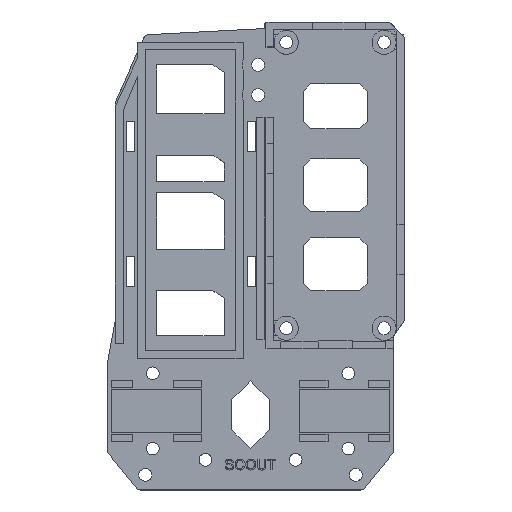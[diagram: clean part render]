
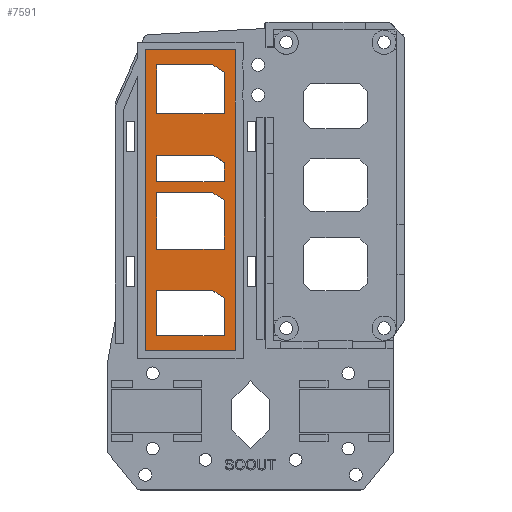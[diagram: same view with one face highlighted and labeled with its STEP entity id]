
A CAD part, top view. The second image highlights one B-rep face of the part: STEP entity #7591.
In plain terms, the highlighted planar face has unit normal (0, 0, 1).
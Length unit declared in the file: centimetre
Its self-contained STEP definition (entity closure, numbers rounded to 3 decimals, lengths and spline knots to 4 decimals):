
#372=FACE_BOUND('',#869,.T.);
#373=FACE_BOUND('',#870,.T.);
#374=FACE_BOUND('',#871,.T.);
#375=FACE_BOUND('',#872,.T.);
#459=FACE_OUTER_BOUND('',#868,.T.);
#868=EDGE_LOOP('',(#5071,#5072,#5073,#5074));
#869=EDGE_LOOP('',(#5075,#5076,#5077,#5078,#5079));
#870=EDGE_LOOP('',(#5080,#5081,#5082,#5083,#5084));
#871=EDGE_LOOP('',(#5085,#5086,#5087,#5088,#5089));
#872=EDGE_LOOP('',(#5090,#5091,#5092,#5093,#5094));
#1379=LINE('',#10163,#2272);
#1383=LINE('',#10171,#2276);
#1386=LINE('',#10177,#2279);
#1389=LINE('',#10182,#2282);
#1391=LINE('',#10187,#2284);
#1392=LINE('',#10189,#2285);
#1393=LINE('',#10191,#2286);
#1394=LINE('',#10193,#2287);
#1395=LINE('',#10194,#2288);
#1396=LINE('',#10197,#2289);
#1397=LINE('',#10199,#2290);
#1398=LINE('',#10201,#2291);
#1399=LINE('',#10203,#2292);
#1400=LINE('',#10204,#2293);
#1401=LINE('',#10207,#2294);
#1402=LINE('',#10209,#2295);
#1403=LINE('',#10211,#2296);
#1404=LINE('',#10213,#2297);
#1405=LINE('',#10214,#2298);
#1406=LINE('',#10217,#2299);
#1407=LINE('',#10219,#2300);
#1408=LINE('',#10221,#2301);
#1409=LINE('',#10223,#2302);
#1410=LINE('',#10224,#2303);
#2272=VECTOR('',#8447,1.);
#2276=VECTOR('',#8453,1.);
#2279=VECTOR('',#8458,1.);
#2282=VECTOR('',#8463,1.);
#2284=VECTOR('',#8467,1.);
#2285=VECTOR('',#8468,1.);
#2286=VECTOR('',#8469,1.);
#2287=VECTOR('',#8470,1.);
#2288=VECTOR('',#8471,1.);
#2289=VECTOR('',#8472,1.);
#2290=VECTOR('',#8473,1.);
#2291=VECTOR('',#8474,1.);
#2292=VECTOR('',#8475,1.);
#2293=VECTOR('',#8476,1.);
#2294=VECTOR('',#8477,1.);
#2295=VECTOR('',#8478,1.);
#2296=VECTOR('',#8479,1.);
#2297=VECTOR('',#8480,1.);
#2298=VECTOR('',#8481,1.);
#2299=VECTOR('',#8482,1.);
#2300=VECTOR('',#8483,1.);
#2301=VECTOR('',#8484,1.);
#2302=VECTOR('',#8485,1.);
#2303=VECTOR('',#8486,1.);
#3163=VERTEX_POINT('',#10161);
#3164=VERTEX_POINT('',#10162);
#3167=VERTEX_POINT('',#10170);
#3169=VERTEX_POINT('',#10176);
#3171=VERTEX_POINT('',#10185);
#3172=VERTEX_POINT('',#10186);
#3173=VERTEX_POINT('',#10188);
#3174=VERTEX_POINT('',#10190);
#3175=VERTEX_POINT('',#10192);
#3176=VERTEX_POINT('',#10195);
#3177=VERTEX_POINT('',#10196);
#3178=VERTEX_POINT('',#10198);
#3179=VERTEX_POINT('',#10200);
#3180=VERTEX_POINT('',#10202);
#3181=VERTEX_POINT('',#10205);
#3182=VERTEX_POINT('',#10206);
#3183=VERTEX_POINT('',#10208);
#3184=VERTEX_POINT('',#10210);
#3185=VERTEX_POINT('',#10212);
#3186=VERTEX_POINT('',#10215);
#3187=VERTEX_POINT('',#10216);
#3188=VERTEX_POINT('',#10218);
#3189=VERTEX_POINT('',#10220);
#3190=VERTEX_POINT('',#10222);
#3919=EDGE_CURVE('',#3163,#3164,#1379,.T.);
#3923=EDGE_CURVE('',#3167,#3163,#1383,.T.);
#3926=EDGE_CURVE('',#3169,#3167,#1386,.T.);
#3929=EDGE_CURVE('',#3164,#3169,#1389,.T.);
#3931=EDGE_CURVE('',#3171,#3172,#1391,.T.);
#3932=EDGE_CURVE('',#3172,#3173,#1392,.T.);
#3933=EDGE_CURVE('',#3173,#3174,#1393,.T.);
#3934=EDGE_CURVE('',#3174,#3175,#1394,.T.);
#3935=EDGE_CURVE('',#3175,#3171,#1395,.T.);
#3936=EDGE_CURVE('',#3176,#3177,#1396,.T.);
#3937=EDGE_CURVE('',#3177,#3178,#1397,.T.);
#3938=EDGE_CURVE('',#3178,#3179,#1398,.T.);
#3939=EDGE_CURVE('',#3179,#3180,#1399,.T.);
#3940=EDGE_CURVE('',#3180,#3176,#1400,.T.);
#3941=EDGE_CURVE('',#3181,#3182,#1401,.T.);
#3942=EDGE_CURVE('',#3182,#3183,#1402,.T.);
#3943=EDGE_CURVE('',#3183,#3184,#1403,.T.);
#3944=EDGE_CURVE('',#3184,#3185,#1404,.T.);
#3945=EDGE_CURVE('',#3185,#3181,#1405,.T.);
#3946=EDGE_CURVE('',#3186,#3187,#1406,.T.);
#3947=EDGE_CURVE('',#3187,#3188,#1407,.T.);
#3948=EDGE_CURVE('',#3188,#3189,#1408,.T.);
#3949=EDGE_CURVE('',#3189,#3190,#1409,.T.);
#3950=EDGE_CURVE('',#3190,#3186,#1410,.T.);
#5071=ORIENTED_EDGE('',*,*,#3929,.T.);
#5072=ORIENTED_EDGE('',*,*,#3926,.T.);
#5073=ORIENTED_EDGE('',*,*,#3923,.T.);
#5074=ORIENTED_EDGE('',*,*,#3919,.T.);
#5075=ORIENTED_EDGE('',*,*,#3931,.T.);
#5076=ORIENTED_EDGE('',*,*,#3932,.T.);
#5077=ORIENTED_EDGE('',*,*,#3933,.T.);
#5078=ORIENTED_EDGE('',*,*,#3934,.T.);
#5079=ORIENTED_EDGE('',*,*,#3935,.T.);
#5080=ORIENTED_EDGE('',*,*,#3936,.T.);
#5081=ORIENTED_EDGE('',*,*,#3937,.T.);
#5082=ORIENTED_EDGE('',*,*,#3938,.T.);
#5083=ORIENTED_EDGE('',*,*,#3939,.T.);
#5084=ORIENTED_EDGE('',*,*,#3940,.T.);
#5085=ORIENTED_EDGE('',*,*,#3941,.T.);
#5086=ORIENTED_EDGE('',*,*,#3942,.T.);
#5087=ORIENTED_EDGE('',*,*,#3943,.T.);
#5088=ORIENTED_EDGE('',*,*,#3944,.T.);
#5089=ORIENTED_EDGE('',*,*,#3945,.T.);
#5090=ORIENTED_EDGE('',*,*,#3946,.T.);
#5091=ORIENTED_EDGE('',*,*,#3947,.T.);
#5092=ORIENTED_EDGE('',*,*,#3948,.T.);
#5093=ORIENTED_EDGE('',*,*,#3949,.T.);
#5094=ORIENTED_EDGE('',*,*,#3950,.T.);
#7298=PLANE('',#8014);
#7591=ADVANCED_FACE('',(#459,#372,#373,#374,#375),#7298,.T.);
#8014=AXIS2_PLACEMENT_3D('',#10184,#8465,#8466);
#8447=DIRECTION('',(-1.,0.,0.));
#8453=DIRECTION('',(0.,1.,0.));
#8458=DIRECTION('',(1.,0.,0.));
#8463=DIRECTION('',(0.,-1.,0.));
#8465=DIRECTION('center_axis',(0.,0.,1.));
#8466=DIRECTION('ref_axis',(1.,0.,0.));
#8467=DIRECTION('',(1.,0.,0.));
#8468=DIRECTION('',(0.832,-0.555,0.));
#8469=DIRECTION('',(0.,-1.,0.));
#8470=DIRECTION('',(-1.,0.,0.));
#8471=DIRECTION('',(0.,1.,0.));
#8472=DIRECTION('',(1.,0.,0.));
#8473=DIRECTION('',(0.832,-0.555,0.));
#8474=DIRECTION('',(0.,-1.,0.));
#8475=DIRECTION('',(-1.,0.,0.));
#8476=DIRECTION('',(0.,1.,0.));
#8477=DIRECTION('',(1.,0.,0.));
#8478=DIRECTION('',(0.832,-0.555,0.));
#8479=DIRECTION('',(0.,-1.,0.));
#8480=DIRECTION('',(-1.,0.,0.));
#8481=DIRECTION('',(0.,1.,0.));
#8482=DIRECTION('',(1.,0.,0.));
#8483=DIRECTION('',(0.832,-0.555,0.));
#8484=DIRECTION('',(0.,-1.,0.));
#8485=DIRECTION('',(-1.,0.,0.));
#8486=DIRECTION('',(0.,1.,0.));
#10161=CARTESIAN_POINT('',(-0.4,6.4,0.3));
#10162=CARTESIAN_POINT('',(-2.8,6.4,0.3));
#10163=CARTESIAN_POINT('',(-0.4,6.4,0.3));
#10170=CARTESIAN_POINT('',(-0.4,-1.6,0.3));
#10171=CARTESIAN_POINT('',(-0.4,-1.6,0.3));
#10176=CARTESIAN_POINT('',(-2.8,-1.6,0.3));
#10177=CARTESIAN_POINT('',(-2.8,-1.6,0.3));
#10182=CARTESIAN_POINT('',(-2.8,6.4,0.3));
#10184=CARTESIAN_POINT('Origin',(-1.6,2.4,0.3));
#10185=CARTESIAN_POINT('',(-2.5,6.,0.3));
#10186=CARTESIAN_POINT('',(-1.,6.,0.3));
#10187=CARTESIAN_POINT('',(-0.4275,6.,0.3));
#10188=CARTESIAN_POINT('',(-0.7,5.8,0.3));
#10189=CARTESIAN_POINT('',(0.7187,4.8542,0.3));
#10190=CARTESIAN_POINT('',(-0.7,4.7,0.3));
#10191=CARTESIAN_POINT('',(-0.7,2.81,0.3));
#10192=CARTESIAN_POINT('',(-2.5,4.7,0.3));
#10193=CARTESIAN_POINT('',(-1.1775,4.7,0.3));
#10194=CARTESIAN_POINT('',(-2.5,3.46,0.3));
#10195=CARTESIAN_POINT('',(-2.5,3.6,0.3));
#10196=CARTESIAN_POINT('',(-1.,3.6,0.3));
#10197=CARTESIAN_POINT('',(-0.4275,3.6,0.3));
#10198=CARTESIAN_POINT('',(-0.7,3.4,0.3));
#10199=CARTESIAN_POINT('',(0.1648,2.8235,0.3));
#10200=CARTESIAN_POINT('',(-0.7,2.9,0.3));
#10201=CARTESIAN_POINT('',(-0.7,1.91,0.3));
#10202=CARTESIAN_POINT('',(-2.5,2.9,0.3));
#10203=CARTESIAN_POINT('',(-1.1775,2.9,0.3));
#10204=CARTESIAN_POINT('',(-2.5,2.26,0.3));
#10205=CARTESIAN_POINT('',(-2.5,2.6,0.3));
#10206=CARTESIAN_POINT('',(-1.,2.6,0.3));
#10207=CARTESIAN_POINT('',(-0.4275,2.6,0.3));
#10208=CARTESIAN_POINT('',(-0.7,2.4,0.3));
#10209=CARTESIAN_POINT('',(-0.066,1.9773,0.3));
#10210=CARTESIAN_POINT('',(-0.7,1.1,0.3));
#10211=CARTESIAN_POINT('',(-0.7,1.01,0.3));
#10212=CARTESIAN_POINT('',(-2.5,1.1,0.3));
#10213=CARTESIAN_POINT('',(-1.1775,1.1,0.3));
#10214=CARTESIAN_POINT('',(-2.5,1.76,0.3));
#10215=CARTESIAN_POINT('',(-2.5,0.,0.3));
#10216=CARTESIAN_POINT('',(-1.,0.,0.3));
#10217=CARTESIAN_POINT('',(-0.4275,0.,0.3));
#10218=CARTESIAN_POINT('',(-0.7,-0.2,0.3));
#10219=CARTESIAN_POINT('',(-0.666,-0.2227,0.3));
#10220=CARTESIAN_POINT('',(-0.7,-1.2,0.3));
#10221=CARTESIAN_POINT('',(-0.7,-0.14,0.3));
#10222=CARTESIAN_POINT('',(-2.5,-1.2,0.3));
#10223=CARTESIAN_POINT('',(-1.1775,-1.2,0.3));
#10224=CARTESIAN_POINT('',(-2.5,0.46,0.3));
